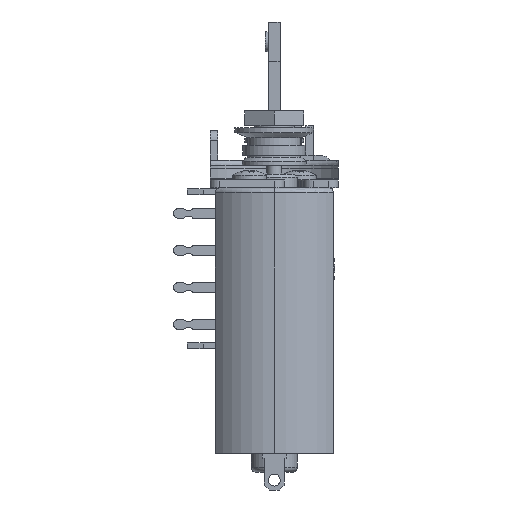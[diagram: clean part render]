
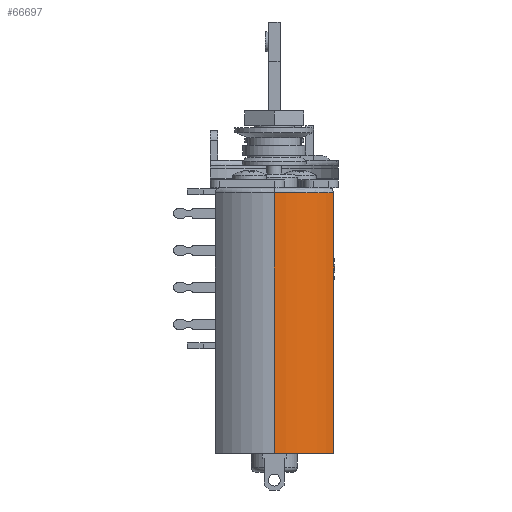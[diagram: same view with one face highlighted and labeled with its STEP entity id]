
A CAD part, left-side view. The second image highlights one B-rep face of the part: STEP entity #66697.
In plain terms, the highlighted cylindrical face has radius 7.75 mm (diameter 15.5 mm), a partial arc.
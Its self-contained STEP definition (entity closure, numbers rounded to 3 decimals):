
#61485 = TOROIDAL_SURFACE('',#61486,7.25,0.5);
#61486 = AXIS2_PLACEMENT_3D('',#61487,#61488,#61489);
#61487 = CARTESIAN_POINT('',(-52.5,0.,-8.3));
#61488 = DIRECTION('',(0.,0.,1.));
#61489 = DIRECTION('',(-1.,0.,0.));
#63928 = VERTEX_POINT('',#63929);
#63929 = CARTESIAN_POINT('',(-60.25,0.,-8.3));
#63949 = EDGE_CURVE('',#63928,#63950,#63952,.T.);
#63950 = VERTEX_POINT('',#63951);
#63951 = CARTESIAN_POINT('',(-57.405,-6.,-8.3));
#63952 = SURFACE_CURVE('',#63953,(#63958,#63965),.PCURVE_S1.);
#63953 = CIRCLE('',#63954,7.75);
#63954 = AXIS2_PLACEMENT_3D('',#63955,#63956,#63957);
#63955 = CARTESIAN_POINT('',(-52.5,0.,-8.3));
#63956 = DIRECTION('',(0.,0.,1.));
#63957 = DIRECTION('',(-1.,0.,0.));
#63958 = PCURVE('',#61485,#63959);
#63959 = DEFINITIONAL_REPRESENTATION('',(#63960),#63964);
#63960 = LINE('',#63961,#63962);
#63961 = CARTESIAN_POINT('',(0.,0.));
#63962 = VECTOR('',#63963,1.);
#63963 = DIRECTION('',(1.,0.));
#63964 = ( GEOMETRIC_REPRESENTATION_CONTEXT(2) 
PARAMETRIC_REPRESENTATION_CONTEXT() REPRESENTATION_CONTEXT('2D SPACE',''
  ) );
#63965 = PCURVE('',#63966,#63971);
#63966 = CYLINDRICAL_SURFACE('',#63967,7.75);
#63967 = AXIS2_PLACEMENT_3D('',#63968,#63969,#63970);
#63968 = CARTESIAN_POINT('',(-52.5,0.,-7.8));
#63969 = DIRECTION('',(0.,0.,1.));
#63970 = DIRECTION('',(-1.,0.,0.));
#63971 = DEFINITIONAL_REPRESENTATION('',(#63972),#63976);
#63972 = LINE('',#63973,#63974);
#63973 = CARTESIAN_POINT('',(0.,-0.5));
#63974 = VECTOR('',#63975,1.);
#63975 = DIRECTION('',(1.,0.));
#63976 = ( GEOMETRIC_REPRESENTATION_CONTEXT(2) 
PARAMETRIC_REPRESENTATION_CONTEXT() REPRESENTATION_CONTEXT('2D SPACE',''
  ) );
#64088 = PLANE('',#64089);
#64089 = AXIS2_PLACEMENT_3D('',#64090,#64091,#64092);
#64090 = CARTESIAN_POINT('',(-40.5,-6.,-40.8));
#64091 = DIRECTION('',(0.,-1.,0.));
#64092 = DIRECTION('',(0.,0.,1.));
#64385 = CYLINDRICAL_SURFACE('',#64386,7.75);
#64386 = AXIS2_PLACEMENT_3D('',#64387,#64388,#64389);
#64387 = CARTESIAN_POINT('',(-52.5,0.,-7.8));
#64388 = DIRECTION('',(0.,0.,1.));
#64389 = DIRECTION('',(-1.,0.,0.));
#66697 = ADVANCED_FACE('',(#66698),#63966,.T.);
#66698 = FACE_BOUND('',#66699,.T.);
#66699 = EDGE_LOOP('',(#66700,#66721,#66722,#66745));
#66700 = ORIENTED_EDGE('',*,*,#66701,.T.);
#66701 = EDGE_CURVE('',#66702,#63950,#66704,.T.);
#66702 = VERTEX_POINT('',#66703);
#66703 = CARTESIAN_POINT('',(-57.405,-6.,-34.7));
#66704 = SURFACE_CURVE('',#66705,(#66709,#66715),.PCURVE_S1.);
#66705 = LINE('',#66706,#66707);
#66706 = CARTESIAN_POINT('',(-57.405,-6.,-7.8));
#66707 = VECTOR('',#66708,1.);
#66708 = DIRECTION('',(0.,0.,1.));
#66709 = PCURVE('',#63966,#66710);
#66710 = DEFINITIONAL_REPRESENTATION('',(#66711),#66714);
#66711 = B_SPLINE_CURVE_WITH_KNOTS('',1,(#66712,#66713),.UNSPECIFIED.,
  .F.,.F.,(2,2),(-26.9,0.),.PIECEWISE_BEZIER_KNOTS.);
#66712 = CARTESIAN_POINT('',(0.885,-26.9));
#66713 = CARTESIAN_POINT('',(0.885,0.));
#66714 = ( GEOMETRIC_REPRESENTATION_CONTEXT(2) 
PARAMETRIC_REPRESENTATION_CONTEXT() REPRESENTATION_CONTEXT('2D SPACE',''
  ) );
#66715 = PCURVE('',#64088,#66716);
#66716 = DEFINITIONAL_REPRESENTATION('',(#66717),#66720);
#66717 = B_SPLINE_CURVE_WITH_KNOTS('',1,(#66718,#66719),.UNSPECIFIED.,
  .F.,.F.,(2,2),(-26.9,0.),.PIECEWISE_BEZIER_KNOTS.);
#66718 = CARTESIAN_POINT('',(6.1,16.905));
#66719 = CARTESIAN_POINT('',(33.,16.905));
#66720 = ( GEOMETRIC_REPRESENTATION_CONTEXT(2) 
PARAMETRIC_REPRESENTATION_CONTEXT() REPRESENTATION_CONTEXT('2D SPACE',''
  ) );
#66721 = ORIENTED_EDGE('',*,*,#63949,.F.);
#66722 = ORIENTED_EDGE('',*,*,#66723,.T.);
#66723 = EDGE_CURVE('',#63928,#66724,#66726,.T.);
#66724 = VERTEX_POINT('',#66725);
#66725 = CARTESIAN_POINT('',(-60.25,0.,-34.7));
#66726 = SURFACE_CURVE('',#66727,(#66731,#66738),.PCURVE_S1.);
#66727 = LINE('',#66728,#66729);
#66728 = CARTESIAN_POINT('',(-60.25,0.,-7.8));
#66729 = VECTOR('',#66730,1.);
#66730 = DIRECTION('',(0.,0.,-1.));
#66731 = PCURVE('',#63966,#66732);
#66732 = DEFINITIONAL_REPRESENTATION('',(#66733),#66737);
#66733 = LINE('',#66734,#66735);
#66734 = CARTESIAN_POINT('',(0.,0.));
#66735 = VECTOR('',#66736,1.);
#66736 = DIRECTION('',(0.,-1.));
#66737 = ( GEOMETRIC_REPRESENTATION_CONTEXT(2) 
PARAMETRIC_REPRESENTATION_CONTEXT() REPRESENTATION_CONTEXT('2D SPACE',''
  ) );
#66738 = PCURVE('',#64385,#66739);
#66739 = DEFINITIONAL_REPRESENTATION('',(#66740),#66744);
#66740 = LINE('',#66741,#66742);
#66741 = CARTESIAN_POINT('',(6.283,0.));
#66742 = VECTOR('',#66743,1.);
#66743 = DIRECTION('',(0.,-1.));
#66744 = ( GEOMETRIC_REPRESENTATION_CONTEXT(2) 
PARAMETRIC_REPRESENTATION_CONTEXT() REPRESENTATION_CONTEXT('2D SPACE',''
  ) );
#66745 = ORIENTED_EDGE('',*,*,#66746,.T.);
#66746 = EDGE_CURVE('',#66724,#66702,#66747,.T.);
#66747 = SURFACE_CURVE('',#66748,(#66753,#66760),.PCURVE_S1.);
#66748 = CIRCLE('',#66749,7.75);
#66749 = AXIS2_PLACEMENT_3D('',#66750,#66751,#66752);
#66750 = CARTESIAN_POINT('',(-52.5,0.,-34.7));
#66751 = DIRECTION('',(0.,0.,1.));
#66752 = DIRECTION('',(-1.,0.,0.));
#66753 = PCURVE('',#63966,#66754);
#66754 = DEFINITIONAL_REPRESENTATION('',(#66755),#66759);
#66755 = LINE('',#66756,#66757);
#66756 = CARTESIAN_POINT('',(0.,-26.9));
#66757 = VECTOR('',#66758,1.);
#66758 = DIRECTION('',(1.,0.));
#66759 = ( GEOMETRIC_REPRESENTATION_CONTEXT(2) 
PARAMETRIC_REPRESENTATION_CONTEXT() REPRESENTATION_CONTEXT('2D SPACE',''
  ) );
#66760 = PCURVE('',#66761,#66766);
#66761 = PLANE('',#66762);
#66762 = AXIS2_PLACEMENT_3D('',#66763,#66764,#66765);
#66763 = CARTESIAN_POINT('',(-52.5,0.,-34.7));
#66764 = DIRECTION('',(0.,0.,1.));
#66765 = DIRECTION('',(-1.,0.,0.));
#66766 = DEFINITIONAL_REPRESENTATION('',(#66767),#66771);
#66767 = CIRCLE('',#66768,7.75);
#66768 = AXIS2_PLACEMENT_2D('',#66769,#66770);
#66769 = CARTESIAN_POINT('',(0.,0.));
#66770 = DIRECTION('',(1.,0.));
#66771 = ( GEOMETRIC_REPRESENTATION_CONTEXT(2) 
PARAMETRIC_REPRESENTATION_CONTEXT() REPRESENTATION_CONTEXT('2D SPACE',''
  ) );
